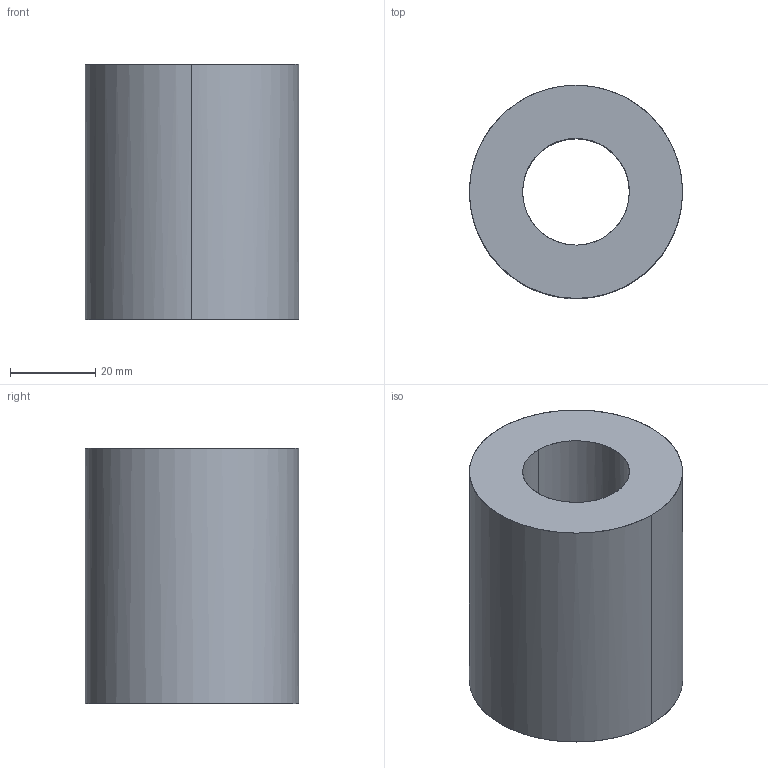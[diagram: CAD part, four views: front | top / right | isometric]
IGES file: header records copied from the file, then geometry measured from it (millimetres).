
Global section: file name: E:\UnigraphicsGraphicData\MISUMI_PRESS-PARTS\IGES\3d_swv50-60_00762_r00.igs; native system: NX V5.0; preprocessor: UGS NX IGES V5.0; author: MISUMI; date: 20110105.163301; units: millimetre
Bounding box: 50 x 50 x 60 mm (x, y, z)
Surface area: 17079.9 mm2 (no closed solid volume)
Topology: 0 solids, 0 shells, 6 faces, 64 edges, 64 vertices
Faces by surface type: bspline 6
